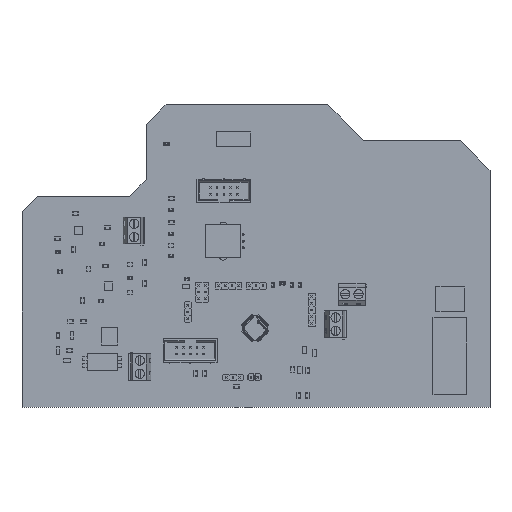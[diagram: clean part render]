
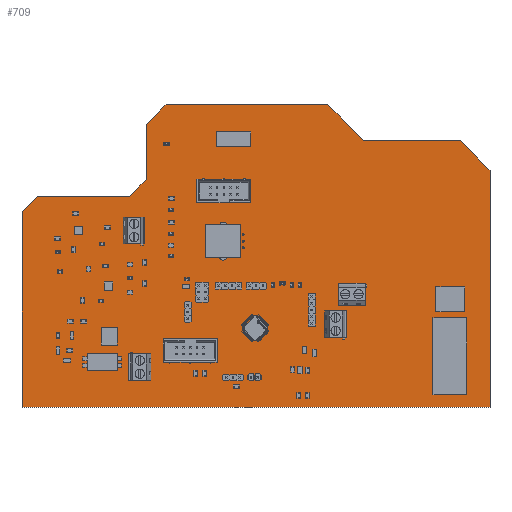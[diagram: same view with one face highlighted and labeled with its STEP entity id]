
A CAD part, top view. The second image highlights one B-rep face of the part: STEP entity #709.
In plain terms, the highlighted planar face has unit normal (0, 0, 1).
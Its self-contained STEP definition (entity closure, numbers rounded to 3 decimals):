
#324 = VERTEX_POINT('',#325);
#325 = CARTESIAN_POINT('',(115.443,113.665,0.411));
#331 = EDGE_CURVE('',#324,#332,#334,.T.);
#332 = VERTEX_POINT('',#333);
#333 = CARTESIAN_POINT('',(128.905,100.203,0.411));
#334 = LINE('',#335,#336);
#335 = CARTESIAN_POINT('',(115.443,113.665,0.411));
#336 = VECTOR('',#337,1.);
#337 = DIRECTION('',(0.707,-0.707,0.));
#362 = EDGE_CURVE('',#332,#363,#365,.T.);
#363 = VERTEX_POINT('',#364);
#364 = CARTESIAN_POINT('',(165.608,100.203,0.411));
#365 = LINE('',#366,#367);
#366 = CARTESIAN_POINT('',(128.905,100.203,0.411));
#367 = VECTOR('',#368,1.);
#368 = DIRECTION('',(1.,0.,0.));
#393 = EDGE_CURVE('',#363,#394,#396,.T.);
#394 = VERTEX_POINT('',#395);
#395 = CARTESIAN_POINT('',(176.657,88.9,0.411));
#396 = LINE('',#397,#398);
#397 = CARTESIAN_POINT('',(165.608,100.203,0.411));
#398 = VECTOR('',#399,1.);
#399 = DIRECTION('',(0.699,-0.715,0.));
#424 = EDGE_CURVE('',#394,#425,#427,.T.);
#425 = VERTEX_POINT('',#426);
#426 = CARTESIAN_POINT('',(176.657,-0.508,0.411));
#427 = LINE('',#428,#429);
#428 = CARTESIAN_POINT('',(176.657,88.9,0.411));
#429 = VECTOR('',#430,1.);
#430 = DIRECTION('',(0.,-1.,0.));
#455 = EDGE_CURVE('',#425,#456,#458,.T.);
#456 = VERTEX_POINT('',#457);
#457 = CARTESIAN_POINT('',(0.,-0.508,0.411));
#458 = LINE('',#459,#460);
#459 = CARTESIAN_POINT('',(176.657,-0.508,0.411));
#460 = VECTOR('',#461,1.);
#461 = DIRECTION('',(-1.,0.,0.));
#486 = EDGE_CURVE('',#456,#487,#489,.T.);
#487 = VERTEX_POINT('',#488);
#488 = CARTESIAN_POINT('',(0.,73.279,0.411));
#489 = LINE('',#490,#491);
#490 = CARTESIAN_POINT('',(0.,-0.508,0.411));
#491 = VECTOR('',#492,1.);
#492 = DIRECTION('',(0.,1.,0.));
#517 = EDGE_CURVE('',#487,#518,#520,.T.);
#518 = VERTEX_POINT('',#519);
#519 = CARTESIAN_POINT('',(5.842,79.121,0.411));
#520 = LINE('',#521,#522);
#521 = CARTESIAN_POINT('',(0.,73.279,0.411));
#522 = VECTOR('',#523,1.);
#523 = DIRECTION('',(0.707,0.707,0.));
#548 = EDGE_CURVE('',#518,#549,#551,.T.);
#549 = VERTEX_POINT('',#550);
#550 = CARTESIAN_POINT('',(40.64,79.121,0.411));
#551 = LINE('',#552,#553);
#552 = CARTESIAN_POINT('',(5.842,79.121,0.411));
#553 = VECTOR('',#554,1.);
#554 = DIRECTION('',(1.,0.,0.));
#579 = EDGE_CURVE('',#549,#580,#582,.T.);
#580 = VERTEX_POINT('',#581);
#581 = CARTESIAN_POINT('',(46.863,85.344,0.411));
#582 = LINE('',#583,#584);
#583 = CARTESIAN_POINT('',(40.64,79.121,0.411));
#584 = VECTOR('',#585,1.);
#585 = DIRECTION('',(0.707,0.707,0.));
#610 = EDGE_CURVE('',#580,#611,#613,.T.);
#611 = VERTEX_POINT('',#612);
#612 = CARTESIAN_POINT('',(46.863,106.172,0.411));
#613 = LINE('',#614,#615);
#614 = CARTESIAN_POINT('',(46.863,85.344,0.411));
#615 = VECTOR('',#616,1.);
#616 = DIRECTION('',(0.,1.,0.));
#641 = EDGE_CURVE('',#611,#642,#644,.T.);
#642 = VERTEX_POINT('',#643);
#643 = CARTESIAN_POINT('',(54.356,113.665,0.411));
#644 = LINE('',#645,#646);
#645 = CARTESIAN_POINT('',(46.863,106.172,0.411));
#646 = VECTOR('',#647,1.);
#647 = DIRECTION('',(0.707,0.707,0.));
#672 = EDGE_CURVE('',#642,#324,#673,.T.);
#673 = LINE('',#674,#675);
#674 = CARTESIAN_POINT('',(54.356,113.665,0.411));
#675 = VECTOR('',#676,1.);
#676 = DIRECTION('',(1.,0.,0.));
#709 = ADVANCED_FACE('',(#710),#724,.F.);
#710 = FACE_BOUND('',#711,.F.);
#711 = EDGE_LOOP('',(#712,#713,#714,#715,#716,#717,#718,#719,#720,#721,
    #722,#723));
#712 = ORIENTED_EDGE('',*,*,#331,.T.);
#713 = ORIENTED_EDGE('',*,*,#362,.T.);
#714 = ORIENTED_EDGE('',*,*,#393,.T.);
#715 = ORIENTED_EDGE('',*,*,#424,.T.);
#716 = ORIENTED_EDGE('',*,*,#455,.T.);
#717 = ORIENTED_EDGE('',*,*,#486,.T.);
#718 = ORIENTED_EDGE('',*,*,#517,.T.);
#719 = ORIENTED_EDGE('',*,*,#548,.T.);
#720 = ORIENTED_EDGE('',*,*,#579,.T.);
#721 = ORIENTED_EDGE('',*,*,#610,.T.);
#722 = ORIENTED_EDGE('',*,*,#641,.T.);
#723 = ORIENTED_EDGE('',*,*,#672,.T.);
#724 = PLANE('',#725);
#725 = AXIS2_PLACEMENT_3D('',#726,#727,#728);
#726 = CARTESIAN_POINT('',(89.516,50.315,0.411));
#727 = DIRECTION('',(-0.,-0.,-1.));
#728 = DIRECTION('',(-1.,0.,0.));
